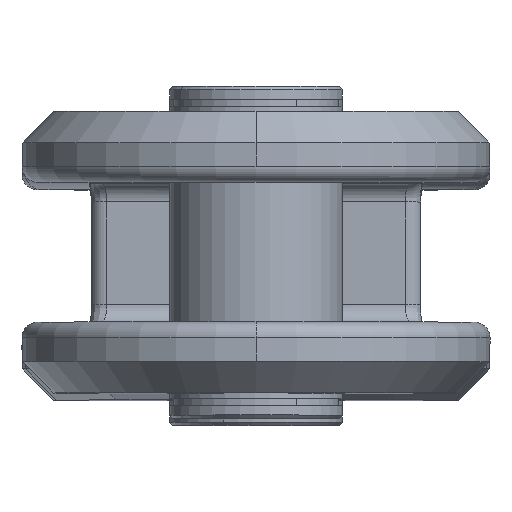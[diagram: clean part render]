
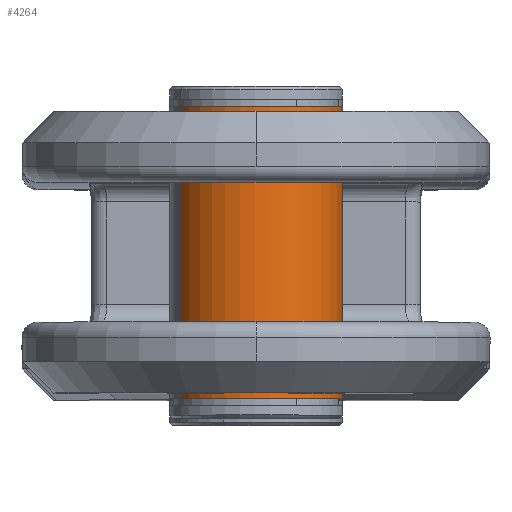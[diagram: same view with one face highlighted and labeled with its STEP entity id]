
A CAD part, top view. The second image highlights one B-rep face of the part: STEP entity #4264.
In plain terms, the highlighted cylindrical face has radius 55 mm (diameter 110 mm), a partial arc.
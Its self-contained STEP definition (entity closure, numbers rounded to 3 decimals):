
#140 = ORIENTED_EDGE ( 'NONE', *, *, #2405, .T. ) ;
#185 = FACE_OUTER_BOUND ( 'NONE', #1069, .T. ) ;
#458 = CARTESIAN_POINT ( 'NONE',  ( 12.5, 0., 55. ) ) ;
#692 = VECTOR ( 'NONE', #1484, 1000. ) ;
#839 = VERTEX_POINT ( 'NONE', #4026 ) ;
#880 = CIRCLE ( 'NONE', #907, 55. ) ;
#907 = AXIS2_PLACEMENT_3D ( 'NONE', #2779, #4399, #4011 ) ;
#918 = VERTEX_POINT ( 'NONE', #6744 ) ;
#1069 = EDGE_LOOP ( 'NONE', ( #4064, #140, #1872, #5844 ) ) ;
#1166 = LINE ( 'NONE', #2321, #2632 ) ;
#1484 = DIRECTION ( 'NONE',  ( -1., 0., 0. ) ) ;
#1728 = VERTEX_POINT ( 'NONE', #4938 ) ;
#1872 = ORIENTED_EDGE ( 'NONE', *, *, #3467, .T. ) ;
#2258 = AXIS2_PLACEMENT_3D ( 'NONE', #5819, #2610, #6314 ) ;
#2321 = CARTESIAN_POINT ( 'NONE',  ( 0., 0., -55. ) ) ;
#2331 = CIRCLE ( 'NONE', #2258, 55. ) ;
#2405 = EDGE_CURVE ( 'NONE', #1728, #918, #880, .T. ) ;
#2610 = DIRECTION ( 'NONE',  ( -1., 0., 0. ) ) ;
#2632 = VECTOR ( 'NONE', #5542, 1000. ) ;
#2779 = CARTESIAN_POINT ( 'NONE',  ( 198.7, 0., 0. ) ) ;
#3312 = DIRECTION ( 'NONE',  ( -1., 0., 0. ) ) ;
#3467 = EDGE_CURVE ( 'NONE', #918, #4588, #6381, .T. ) ;
#3700 = CYLINDRICAL_SURFACE ( 'NONE', #4316, 55. ) ;
#3704 = CARTESIAN_POINT ( 'NONE',  ( 0., 0., 55. ) ) ;
#3863 = EDGE_CURVE ( 'NONE', #839, #4588, #2331, .T. ) ;
#4011 = DIRECTION ( 'NONE',  ( 0., -1., 0. ) ) ;
#4026 = CARTESIAN_POINT ( 'NONE',  ( 12.5, 0., -55. ) ) ;
#4064 = ORIENTED_EDGE ( 'NONE', *, *, #6522, .F. ) ;
#4264 = ADVANCED_FACE ( 'NONE', ( #185 ), #3700, .T. ) ;
#4316 = AXIS2_PLACEMENT_3D ( 'NONE', #5969, #3312, #5467 ) ;
#4399 = DIRECTION ( 'NONE',  ( -1., 0., 0. ) ) ;
#4588 = VERTEX_POINT ( 'NONE', #458 ) ;
#4938 = CARTESIAN_POINT ( 'NONE',  ( 198.7, 0., -55. ) ) ;
#5467 = DIRECTION ( 'NONE',  ( 0., 0., 1. ) ) ;
#5542 = DIRECTION ( 'NONE',  ( -1., 0., 0. ) ) ;
#5819 = CARTESIAN_POINT ( 'NONE',  ( 12.5, 0., 0. ) ) ;
#5844 = ORIENTED_EDGE ( 'NONE', *, *, #3863, .F. ) ;
#5969 = CARTESIAN_POINT ( 'NONE',  ( 0., 0., 0. ) ) ;
#6314 = DIRECTION ( 'NONE',  ( 0., -1., 0. ) ) ;
#6381 = LINE ( 'NONE', #3704, #692 ) ;
#6522 = EDGE_CURVE ( 'NONE', #1728, #839, #1166, .T. ) ;
#6744 = CARTESIAN_POINT ( 'NONE',  ( 198.7, 0., 55. ) ) ;
